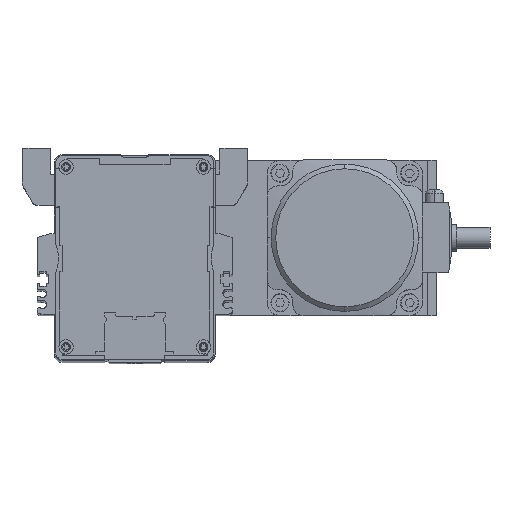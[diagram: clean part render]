
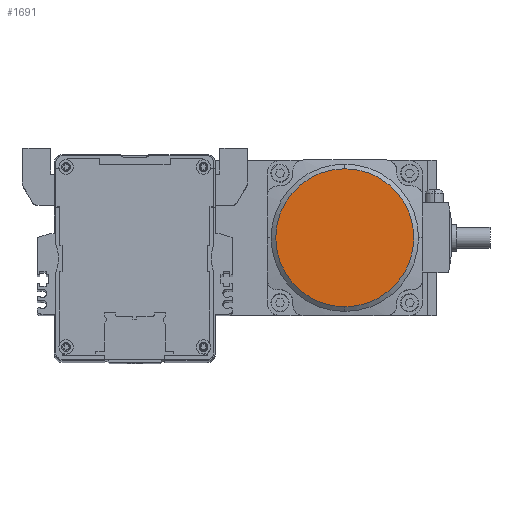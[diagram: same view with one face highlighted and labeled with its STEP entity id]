
A CAD part, top view. The second image highlights one B-rep face of the part: STEP entity #1691.
In plain terms, the highlighted planar face has unit normal (0, 0, 1).
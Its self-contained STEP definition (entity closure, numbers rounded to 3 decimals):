
#1569 = ORIENTED_EDGE ( 'NONE', *, *, #1685, .F. ) ;
#1631 = ORIENTED_EDGE ( 'NONE', *, *, #22316, .F. ) ;
#1649 = EDGE_LOOP ( 'NONE', ( #1631, #1569 ) ) ;
#1685 = EDGE_CURVE ( 'NONE', #22236, #22311, #29734, .T. ) ;
#1691 = ADVANCED_FACE ( 'NONE', ( #29718 ), #29707, .F. ) ;
#6394 = CARTESIAN_POINT ( 'NONE',  ( 268.19, 22.585, 64.5 ) ) ;
#6514 = CARTESIAN_POINT ( 'NONE',  ( 268.19, -4.031, 64.5 ) ) ;
#6556 = DIRECTION ( 'NONE',  ( 0., -1., 0. ) ) ;
#6557 = DIRECTION ( 'NONE',  ( 0., 0., -1. ) ) ;
#6566 = CIRCLE ( 'NONE', #6573, 26.616 ) ;
#6572 = CARTESIAN_POINT ( 'NONE',  ( 268.19, -30.647, 64.5 ) ) ;
#6573 = AXIS2_PLACEMENT_3D ( 'NONE', #6514, #6557, #6556 ) ;
#22236 = VERTEX_POINT ( 'NONE', #6394 ) ;
#22311 = VERTEX_POINT ( 'NONE', #6572 ) ;
#22316 = EDGE_CURVE ( 'NONE', #22311, #22236, #6566, .T. ) ;
#29707 = PLANE ( 'NONE',  #29759 ) ;
#29708 = DIRECTION ( 'NONE',  ( 0., -1., 0. ) ) ;
#29709 = DIRECTION ( 'NONE',  ( 0., 0., -1. ) ) ;
#29710 = AXIS2_PLACEMENT_3D ( 'NONE', #29717, #29709, #29708 ) ;
#29717 = CARTESIAN_POINT ( 'NONE',  ( 268.19, -4.031, 64.5 ) ) ;
#29718 = FACE_OUTER_BOUND ( 'NONE', #1649, .T. ) ;
#29734 = CIRCLE ( 'NONE', #29710, 26.616 ) ;
#29754 = DIRECTION ( 'NONE',  ( 0., -1., 0. ) ) ;
#29759 = AXIS2_PLACEMENT_3D ( 'NONE', #29761, #29760, #29754 ) ;
#29760 = DIRECTION ( 'NONE',  ( 0., 0., -1. ) ) ;
#29761 = CARTESIAN_POINT ( 'NONE',  ( 268.19, -4.031, 64.5 ) ) ;
